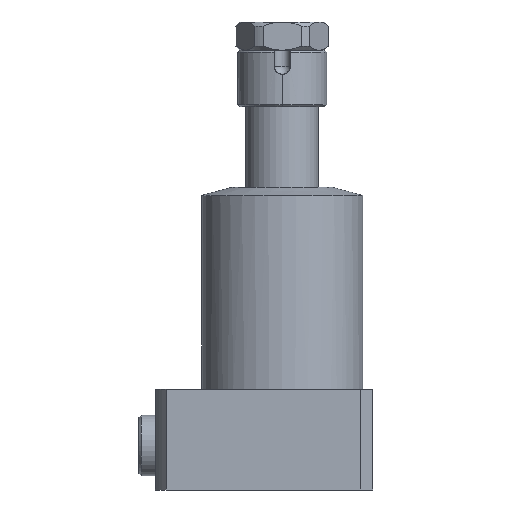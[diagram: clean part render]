
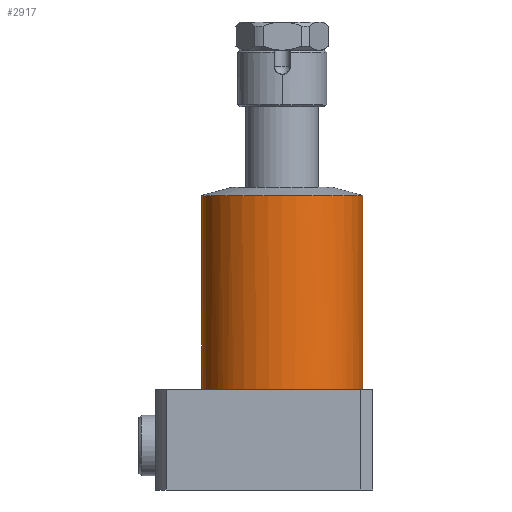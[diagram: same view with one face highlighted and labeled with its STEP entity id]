
A CAD part, front view. The second image highlights one B-rep face of the part: STEP entity #2917.
In plain terms, the highlighted cylindrical face has radius 20 mm (diameter 40 mm), a partial arc.
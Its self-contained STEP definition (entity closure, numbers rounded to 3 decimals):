
#348 = VERTEX_POINT ( 'NONE', #12266 ) ;
#401 = DIRECTION ( 'NONE',  ( 0., 0., -1. ) ) ;
#640 = DIRECTION ( 'NONE',  ( 0., 0., -1. ) ) ;
#771 = DIRECTION ( 'NONE',  ( 0., 0., -1. ) ) ;
#873 = CIRCLE ( 'NONE', #1099, 20. ) ;
#1099 = AXIS2_PLACEMENT_3D ( 'NONE', #15870, #7690, #17251 ) ;
#1727 = DIRECTION ( 'NONE',  ( 0., 0., -1. ) ) ;
#1874 = EDGE_CURVE ( 'NONE', #10575, #4301, #12514, .T. ) ;
#2077 = ORIENTED_EDGE ( 'NONE', *, *, #16663, .F. ) ;
#2541 = CARTESIAN_POINT ( 'NONE',  ( 0., 0., 72.99 ) ) ;
#2701 = LINE ( 'NONE', #17529, #13554 ) ;
#2917 = ADVANCED_FACE ( 'NONE', ( #4424 ), #3994, .T. ) ;
#3732 = CIRCLE ( 'NONE', #12993, 20. ) ;
#3901 = DIRECTION ( 'NONE',  ( -1., 0., 0. ) ) ;
#3994 = CYLINDRICAL_SURFACE ( 'NONE', #15749, 20. ) ;
#4272 = CIRCLE ( 'NONE', #14557, 20. ) ;
#4301 = VERTEX_POINT ( 'NONE', #14208 ) ;
#4424 = FACE_OUTER_BOUND ( 'NONE', #14772, .T. ) ;
#4586 = VERTEX_POINT ( 'NONE', #12182 ) ;
#5574 = EDGE_CURVE ( 'NONE', #348, #10575, #3732, .T. ) ;
#6348 = EDGE_CURVE ( 'NONE', #13274, #4301, #2701, .T. ) ;
#6499 = LINE ( 'NONE', #11402, #9669 ) ;
#6535 = ORIENTED_EDGE ( 'NONE', *, *, #13041, .F. ) ;
#6795 = AXIS2_PLACEMENT_3D ( 'NONE', #2541, #12026, #3901 ) ;
#7690 = DIRECTION ( 'NONE',  ( 0., 0., -1. ) ) ;
#7957 = AXIS2_PLACEMENT_3D ( 'NONE', #8505, #401, #9847 ) ;
#8271 = DIRECTION ( 'NONE',  ( 0., 0., -1. ) ) ;
#8505 = CARTESIAN_POINT ( 'NONE',  ( 0., 0., 25. ) ) ;
#8751 = CARTESIAN_POINT ( 'NONE',  ( 0., 0., 25. ) ) ;
#8877 = CARTESIAN_POINT ( 'NONE',  ( 0., 0., 25. ) ) ;
#9333 = DIRECTION ( 'NONE',  ( 0., 0., -1. ) ) ;
#9618 = CARTESIAN_POINT ( 'NONE',  ( 0., 0., 75. ) ) ;
#9669 = VECTOR ( 'NONE', #12769, 1000. ) ;
#9700 = CARTESIAN_POINT ( 'NONE',  ( -15.909, -12.12, 25. ) ) ;
#9761 = VERTEX_POINT ( 'NONE', #17092 ) ;
#9833 = CARTESIAN_POINT ( 'NONE',  ( 0., 0., 25. ) ) ;
#9847 = DIRECTION ( 'NONE',  ( -1., 0., 0. ) ) ;
#10101 = DIRECTION ( 'NONE',  ( -1., 0., 0. ) ) ;
#10229 = DIRECTION ( 'NONE',  ( -1., 0., 0. ) ) ;
#10575 = VERTEX_POINT ( 'NONE', #9700 ) ;
#10991 = DIRECTION ( 'NONE',  ( -1., 0., 0. ) ) ;
#11099 = CARTESIAN_POINT ( 'NONE',  ( -20., 0., 72.99 ) ) ;
#11210 = DIRECTION ( 'NONE',  ( -1., 0., 0. ) ) ;
#11402 = CARTESIAN_POINT ( 'NONE',  ( 20., 0., 75. ) ) ;
#11465 = ORIENTED_EDGE ( 'NONE', *, *, #12172, .F. ) ;
#12026 = DIRECTION ( 'NONE',  ( 0., 0., 1. ) ) ;
#12172 = EDGE_CURVE ( 'NONE', #4586, #9761, #12782, .T. ) ;
#12182 = CARTESIAN_POINT ( 'NONE',  ( 15.909, -12.12, 25. ) ) ;
#12266 = CARTESIAN_POINT ( 'NONE',  ( -12.12, -15.909, 25. ) ) ;
#12514 = CIRCLE ( 'NONE', #7957, 20. ) ;
#12657 = ORIENTED_EDGE ( 'NONE', *, *, #6348, .T. ) ;
#12769 = DIRECTION ( 'NONE',  ( 0., 0., -1. ) ) ;
#12782 = CIRCLE ( 'NONE', #17052, 20. ) ;
#12993 = AXIS2_PLACEMENT_3D ( 'NONE', #9833, #1727, #11210 ) ;
#13001 = ORIENTED_EDGE ( 'NONE', *, *, #14819, .F. ) ;
#13041 = EDGE_CURVE ( 'NONE', #9761, #348, #4272, .T. ) ;
#13176 = CIRCLE ( 'NONE', #6795, 20. ) ;
#13274 = VERTEX_POINT ( 'NONE', #11099 ) ;
#13554 = VECTOR ( 'NONE', #9333, 1000. ) ;
#13621 = EDGE_CURVE ( 'NONE', #16849, #4586, #873, .T. ) ;
#13880 = VERTEX_POINT ( 'NONE', #15224 ) ;
#14208 = CARTESIAN_POINT ( 'NONE',  ( -20., 0., 25. ) ) ;
#14557 = AXIS2_PLACEMENT_3D ( 'NONE', #8751, #640, #10101 ) ;
#14772 = EDGE_LOOP ( 'NONE', ( #2077, #13001, #12657, #16373, #16481, #6535, #11465, #16632 ) ) ;
#14819 = EDGE_CURVE ( 'NONE', #13274, #13880, #13176, .T. ) ;
#15224 = CARTESIAN_POINT ( 'NONE',  ( 20., 0., 72.99 ) ) ;
#15749 = AXIS2_PLACEMENT_3D ( 'NONE', #9618, #8271, #10991 ) ;
#15870 = CARTESIAN_POINT ( 'NONE',  ( 0., 0., 25. ) ) ;
#16373 = ORIENTED_EDGE ( 'NONE', *, *, #1874, .F. ) ;
#16481 = ORIENTED_EDGE ( 'NONE', *, *, #5574, .F. ) ;
#16632 = ORIENTED_EDGE ( 'NONE', *, *, #13621, .F. ) ;
#16663 = EDGE_CURVE ( 'NONE', #13880, #16849, #6499, .T. ) ;
#16849 = VERTEX_POINT ( 'NONE', #17318 ) ;
#17052 = AXIS2_PLACEMENT_3D ( 'NONE', #8877, #771, #10229 ) ;
#17092 = CARTESIAN_POINT ( 'NONE',  ( 12.12, -15.909, 25. ) ) ;
#17251 = DIRECTION ( 'NONE',  ( -1., 0., 0. ) ) ;
#17318 = CARTESIAN_POINT ( 'NONE',  ( 20., 0., 25. ) ) ;
#17529 = CARTESIAN_POINT ( 'NONE',  ( -20., 0., 75. ) ) ;
